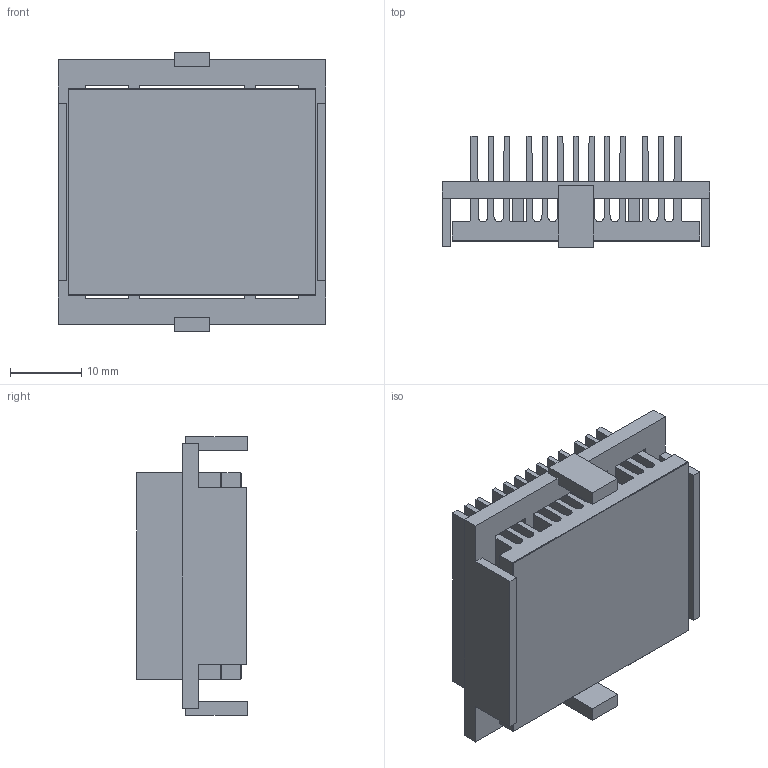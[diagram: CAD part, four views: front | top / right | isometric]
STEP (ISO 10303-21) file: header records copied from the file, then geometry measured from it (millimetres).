
FILE_DESCRIPTION (( 'STEP AP214' ), '1' );
FILE_NAME ('INH35001-15-2.6O.STEP', '2023-02-17T22:46:05', ( '' ), ( '' ), 'SwSTEP 2.0', 'SolidWorks 2020', '' );
FILE_SCHEMA (( 'AUTOMOTIVE_DESIGN' ));
Length unit declared in the file: millimetre
Products named in the file (1): INH35001-15-2.6O
Bounding box: 37.7 x 15.6 x 39.2 mm (x, y, z)
Volume: 8353.6 mm3; surface area: 16271.5 mm2
Topology: 3 solids, 3 shells, 144 faces, 414 edges, 276 vertices
Faces by surface type: plane 118, cylinder 26
Entity records: 6310 total; most frequent: CARTESIAN_POINT 835, ORIENTED_EDGE 828, DIRECTION 756, EDGE_CURVE 414, VECTOR 362, LINE 362, VERTEX_POINT 276, AXIS2_PLACEMENT_3D 197
